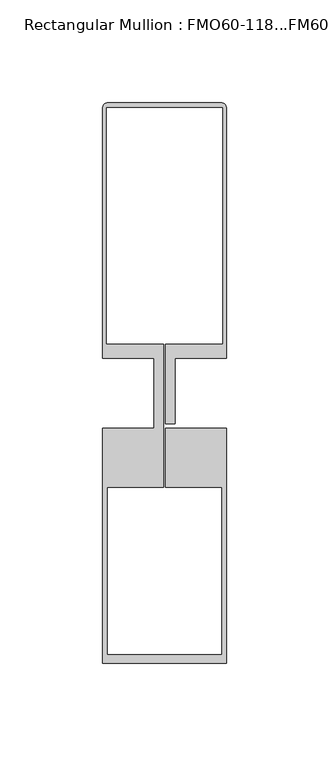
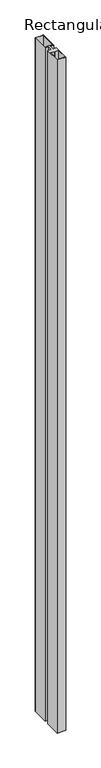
"""IFC4 building model written with IfcOpenShell, lengths in millimetres: member geometry, Rectangular Mullion : FMO60-118...FM60-120."""

from ifc_helpers import new_model, si_unit, point, frame, frame_2d, origin, place, context, project, spatial, polyline, circle_curve, trimmed, segment, composite_curve, outline, extrude, source, transform, mapped, element, save


def rectangular_mullion_fmo60_118_fm60_120_f7351382(model_context):
    return source(origin(), model_context, "Body", "SweptSolid", [
        extrude(outline(composite_curve([segment(trimmed(circle_curve(frame_2d((28.0, 139.0574739)), 2.0), [point((28.0, 141.0574739))], [point((30.0, 139.0574739))], False, "CARTESIAN"), True, "CONTINUOUS"), segment(polyline([(30.0, 139.0574739), (30.0, 17.0), (5.0, 17.0), (5.0, -14.6756555), (0.5, -14.6756555), (0.5, 23.8476589), (28.5, 23.8476589), (28.5, 139.0574739), (-28.5, 139.0574739), (-28.5, 23.8476589), (-0.5, 23.8476589), (-0.5, -45.5034642), (-28.0, -45.5034642), (-28.0, -127.009342), (28.0, -127.009342), (28.0, -45.5034642), (0.5, -45.5034642), (0.5, -17.0), (30.0, -17.0), (30.0, -131.009342), (-30.0, -131.009342), (-30.0, -17.0), (-5.0, -17.0), (-5.0, 17.0), (-29.9999999, 17.0), (-29.9999999, 139.0574739)]), True, "CONTINUOUS"), segment(trimmed(circle_curve(frame_2d((-28.0, 139.0574739)), 2.0), [point((-29.9999999, 139.0574739))], [point((-28.0, 141.0574739))], False, "CARTESIAN"), True, "CONTINUOUS"), segment(polyline([(-28.0, 141.0574739), (28.0, 141.0574739)]), True, "CONTINUOUS")], self_intersect=False)), frame((0.0, 0.0, -5000.0), z_axis=(0.0, 0.0, 1.0), x_axis=(1.0, 0.0, 0.0)), (0.0, 0.0, 1.0), 5000.0),
    ])


if __name__ == "__main__":
    model = new_model("IFC4")
    model_context = context("Model", 3, world=origin())
    ifc_project = project(units=[si_unit("LENGTHUNIT", "METRE", prefix="MILLI")], contexts=[model_context])
    site = spatial("IfcSite", under=ifc_project)
    building = spatial("IfcBuilding", under=site)
    placement = place(None, origin())
    rectangular_mullion_fmo60_118_fm60_120_shape = rectangular_mullion_fmo60_118_fm60_120_f7351382(model_context)
    element("IfcMember", 1, ObjectType="Rectangular Mullion : FMO60-118...FM60-120", at=placement, inside=building, context=model_context, shape_type="MappedRepresentation", body=[
        mapped(rectangular_mullion_fmo60_118_fm60_120_shape, transform((0.0, 0.0, 0.0), x_axis=(1.0, 0.0, 0.0), y_axis=(0.0, 1.0, 0.0), z_axis=(0.0, 0.0, 1.0))),
    ])
    save(model, "model.ifc")
